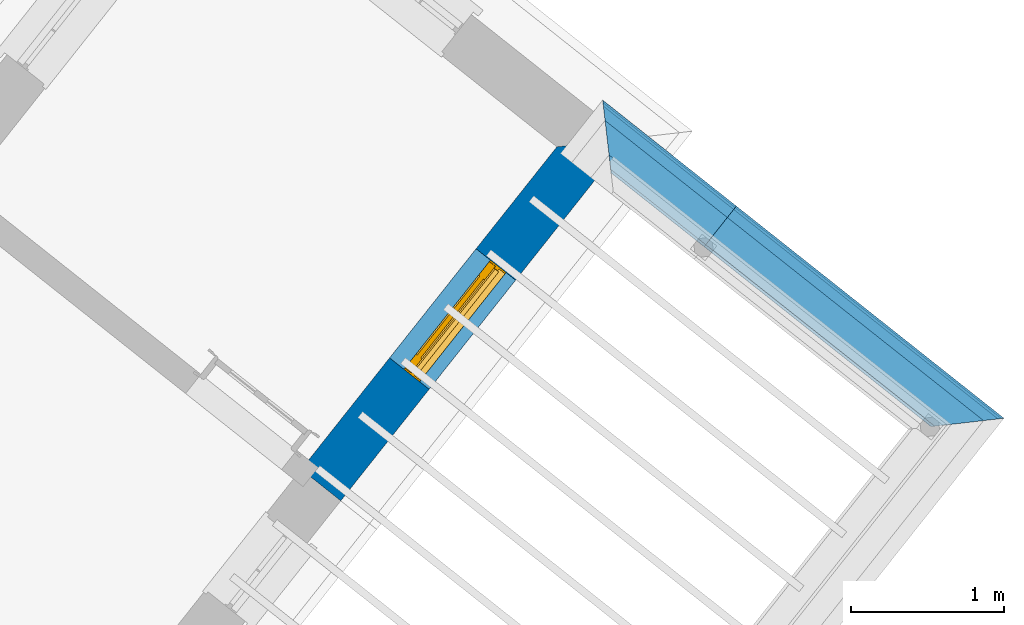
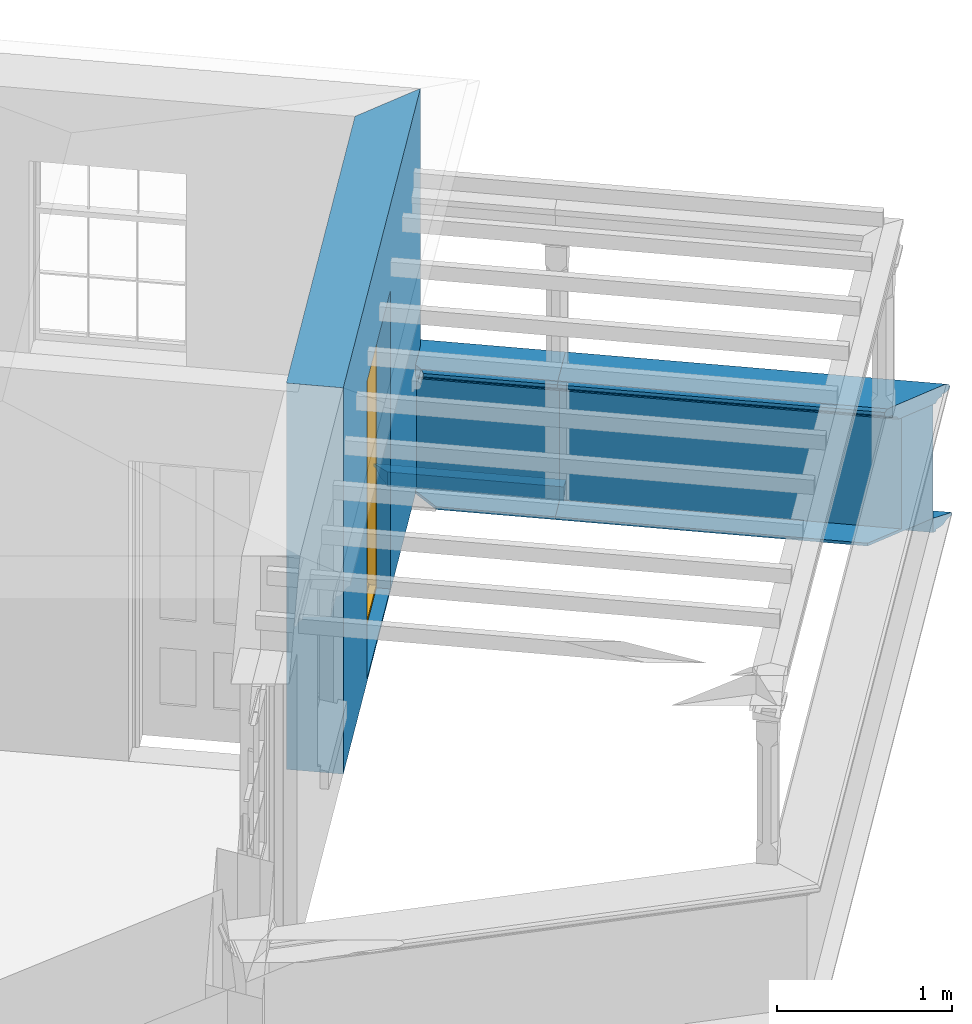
# One storey, part 4 of 5: 7 walls, 1 door, 1 opening.
"""IFC4 building model written with IfcOpenShell, lengths in metres."""

from ifc_helpers import new_model, si_unit, frame, origin, origin_with_axes, place, context, subcontext, project, spatial, polyline, outline, extrude, clip, halfspace, faceted_brep, source, transform, mapped, material, layer, layer_set, layer_usage, material_profile, profile_set, profile_usage, type_object, type_shapes, element, fill, save


model = new_model("IFC4")

# Units and contexts
model_context = context("Model", 3, world=origin_with_axes())
body_context = subcontext(model_context, "Body", "Model", "MODEL_VIEW")
ifc_project = project(units=[si_unit("PLANEANGLEUNIT", "RADIAN"), si_unit("MASSUNIT", "GRAM", prefix="KILO"), si_unit("FORCEUNIT", "NEWTON", prefix="KILO"), si_unit("LENGTHUNIT", "METRE"), si_unit("AREAUNIT", "SQUARE_METRE"), si_unit("VOLUMEUNIT", "CUBIC_METRE")], contexts=[model_context, model_context])

# Sites, building, storey
site_1_placement = place(None, origin_with_axes())
site_1 = spatial("IfcSite", under=ifc_project, at=site_1_placement, Name="Tamar")
site_2_placement = place(site_1_placement, origin_with_axes())
site_2 = spatial("IfcSite", under=site_1, at=site_2_placement, Name="Site plot-5", CompositionType="ELEMENT")
building_placement = place(None, origin_with_axes())
building = spatial("IfcBuilding", under=site_2, at=building_placement, Name="Building plot-5", CompositionType="ELEMENT")
storey_placement = place(None, frame((0.0, 0.0, 30.15), z_axis=(0.0, 0.0, 1.0), x_axis=(1.0, 0.0, 0.0)))
storey = spatial("IfcBuildingStorey", under=building, at=storey_placement, Name="plot-5 2", CompositionType="ELEMENT", Elevation=30.15)

# Wall, opening, door
ifc_material = material(Name="Masonry")
ifc_layer = layer(ifc_material, 0.33, ventilated=False)
ifc_layer_set = layer_set([ifc_layer], Name="exterior_0.08_0.25")
ifc_layer_usage = layer_usage(ifc_layer_set, "AXIS2", "POSITIVE", -0.25)
wall_type_1 = type_object("IfcWallType", Name="exterior_0.08_0.25", PredefinedType="SOLIDWALL", material=ifc_layer_set)
wall_1_placement = place(storey_placement, frame((230.162239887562, 273.505186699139, 0.0), z_axis=(0.0, 0.0, 1.0), x_axis=(0.62119239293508, 0.783658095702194, 0.0)))
wall_1 = element("IfcWall", 1, at=wall_1_placement, inside=storey, type_object=wall_type_1, material=ifc_layer_usage, Name="exterior", context=body_context, shape_type="SweptSolid", body=[
    extrude(outline(polyline([(-2.75463959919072e-14, 0.0800000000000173), (1.03044004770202e-13, -0.249999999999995), (3.02068773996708, -0.24999999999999), (2.69068773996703, 0.0800000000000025), (-2.75463959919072e-14, 0.0800000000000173)])), origin_with_axes(), (0.0, 0.0, 1.0), 2.7),
])
opening_placement = place(wall_1_placement, frame((0.930343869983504, 0.0, 0.0199999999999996)))
opening = element("IfcOpeningElement", 2, at=opening_placement, cuts=wall_1, Name="My Opening", ObjectType="Opening", context=body_context, shape_type="SweptSolid", body=[
    extrude(outline(polyline([(0.0, -0.270000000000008), (0.910000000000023, -0.269999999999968), (0.910000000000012, 1.10000000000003), (-1.04360964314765e-14, 1.09999999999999), (0.0, -0.270000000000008)])), origin_with_axes(), (0.0, 0.0, 1.0), 2.08),
])
door_type = type_object("IfcDoorType", Name="door_panelled", OperationType="SINGLE_SWING_LEFT", PredefinedType="NOTDEFINED")
shared_shape = source(origin(), body_context, "Body", "Brep", [
    faceted_brep([(0.545, 0.195, 0.265), (0.745, 0.195, 0.265), (0.745, 0.2, 0.265), (0.545, 0.2, 0.265), (0.745, 0.2, 0.58), (0.545, 0.2, 0.58), (0.545, 0.195, 0.58), (0.515, 0.19, 0.235), (0.775, 0.19, 0.235), (0.745, 0.195, 0.58), (0.515, 0.19, 0.61), (0.515, 0.185, 0.235), (0.775, 0.185, 0.235), (0.775, 0.19, 0.61), (0.515, 0.185, 0.61), (0.785, 0.185, 0.225), (0.505, 0.185, 0.225), (0.775, 0.185, 0.61), (0.505, 0.185, 0.62), (0.785, 0.185, 0.62), (0.505, 0.18, 0.225), (0.785, 0.18, 0.225), (0.505, 0.18, 0.62), (0.785, 0.18, 0.62), (0.883, 0.18, 0.075), (0.898, 0.18, 0.075), (0.405, 0.18, 0.62), (0.405, 0.18, 0.225), (0.027, 0.18, 0.075), (0.785, 0.18, 0.82), (0.125, 0.18, 0.82), (0.405, 0.185, 0.62), (0.405, 0.185, 0.225), (0.898, 0.18, 2.068), (0.027, 0.17, 0.075), (0.883, 0.17, 0.075), (0.125, 0.18, 0.225), (0.012, 0.18, 0.075), (0.785, 0.19, 0.82), (0.125, 0.19, 0.82), (0.125, 0.18, 0.62), (0.125, 0.185, 0.62), (0.395, 0.185, 0.61), (0.395, 0.185, 0.235), (0.125, 0.185, 0.225), (0.785, 0.18, 1.895), (0.027, 0.14, 0.045), (0.883, 0.14, 0.045), (0.558333, 0.19, 0.83), (0.351667, 0.19, 0.83), (0.125, 0.18, 1.895), (0.125, 0.19, 1.895), (0.785, 0.19, 1.895), (0.012, 0.18, 2.068), (0.135, 0.185, 0.61), (0.395, 0.19, 0.61), (0.395, 0.19, 0.235), (0.135, 0.185, 0.235), (0.027, 0.14, 0.027), (0.883, 0.14, 0.027), (0.568333, 0.19, 0.83), (0.558333, 0.22, 0.83), (0.351667, 0.22, 0.83), (0.341667, 0.19, 0.83), (0.135, 0.19, 1.185), (0.135, 0.19, 1.53), (0.775, 0.19, 1.53), (0.775, 0.19, 1.185), (0.135, 0.19, 0.61), (0.365, 0.195, 0.58), (0.365, 0.195, 0.265), (0.135, 0.19, 0.235), (0.568333, 0.19, 1.175), (0.558333, 0.19, 1.175), (0.775, 0.19, 0.83), (0.558333, 0.22, 1.175), (0.785, 0.22, 0.82), (0.125, 0.22, 0.82), (0.351667, 0.22, 1.175), (0.351667, 0.19, 1.175), (0.341667, 0.19, 1.175), (0.135, 0.19, 0.83), (0.135, 0.19, 1.175), (0.135, 0.22, 1.185), (0.135, 0.22, 1.53), (0.135, 0.19, 1.54), (0.351667, 0.19, 1.885), (0.558333, 0.19, 1.885), (0.775, 0.22, 1.53), (0.775, 0.22, 1.185), (0.775, 0.19, 1.175), (0.775, 0.19, 1.54), (0.165, 0.195, 0.58), (0.365, 0.2, 0.58), (0.365, 0.2, 0.265), (0.165, 0.195, 0.265), (0.568333, 0.22, 0.83), (0.568333, 0.22, 1.175), (0.568333, 0.19, 1.185), (0.558333, 0.19, 1.185), (0.775, 0.22, 0.83), (0.785, 0.23, 0.82), (0.125, 0.23, 0.82), (0.341667, 0.22, 0.83), (0.341667, 0.22, 1.175), (0.351667, 0.19, 1.185), (0.341667, 0.19, 1.185), (0.135, 0.22, 0.83), (0.341667, 0.22, 1.185), (0.125, 0.22, 1.895), (0.341667, 0.22, 1.53), (0.341667, 0.19, 1.53), (0.135, 0.19, 1.885), (0.341667, 0.19, 1.54), (0.341667, 0.19, 1.885), (0.558333, 0.22, 1.885), (0.351667, 0.22, 1.885), (0.568333, 0.19, 1.885), (0.785, 0.22, 1.895), (0.568333, 0.22, 1.185), (0.568333, 0.19, 1.53), (0.568333, 0.22, 1.53), (0.568333, 0.19, 1.54), (0.775, 0.19, 1.885), (0.165, 0.2, 0.58), (0.165, 0.2, 0.265), (0.775, 0.22, 1.175), (0.558333, 0.19, 1.53), (0.351667, 0.22, 1.185), (0.558333, 0.22, 1.185), (0.505, 0.23, 0.62), (0.405, 0.23, 0.62), (0.125, 0.23, 1.895), (0.785, 0.23, 1.895), (0.351667, 0.19, 1.53), (0.135, 0.22, 1.175), (0.135, 0.22, 1.54), (0.341667, 0.22, 1.54), (0.135, 0.22, 1.885), (0.351667, 0.19, 1.54), (0.558333, 0.22, 1.54), (0.558333, 0.19, 1.54), (0.351667, 0.22, 1.54), (0.775, 0.22, 1.54), (0.568333, 0.22, 1.54), (0.775, 0.22, 1.885), (0.558333, 0.22, 1.53), (0.405, 0.23, 0.225), (0.505, 0.23, 0.225), (0.125, 0.23, 0.62), (0.785, 0.23, 0.62), (0.012, 0.23, 2.068), (0.898, 0.23, 2.068), (0.351667, 0.22, 1.53), (0.341667, 0.22, 1.885), (0.568333, 0.22, 1.885), (0.405, 0.225, 0.225), (0.405, 0.225, 0.62), (0.505, 0.225, 0.62), (0.505, 0.225, 0.225), (0.898, 0.23, 0.027), (0.012, 0.23, 0.027), (0.125, 0.225, 0.62), (0.785, 0.225, 0.62), (0.395, 0.225, 0.235), (0.395, 0.225, 0.61), (0.125, 0.23, 0.225), (0.125, 0.225, 0.225), (0.515, 0.225, 0.61), (0.515, 0.225, 0.235), (0.785, 0.23, 0.225), (0.785, 0.225, 0.225), (0.135, 0.225, 0.61), (0.775, 0.225, 0.61), (0.135, 0.225, 0.235), (0.395, 0.22, 0.235), (0.395, 0.22, 0.61), (0.515, 0.22, 0.61), (0.515, 0.22, 0.235), (0.775, 0.225, 0.235), (0.135, 0.22, 0.61), (0.775, 0.22, 0.61), (0.135, 0.22, 0.235), (0.365, 0.215, 0.265), (0.365, 0.215, 0.58), (0.545, 0.215, 0.58), (0.545, 0.215, 0.265), (0.775, 0.22, 0.235), (0.165, 0.215, 0.58), (0.745, 0.215, 0.58), (0.165, 0.215, 0.265), (0.365, 0.21, 0.58), (0.365, 0.21, 0.265), (0.545, 0.21, 0.58), (0.545, 0.21, 0.265), (0.745, 0.215, 0.265), (0.165, 0.21, 0.58), (0.745, 0.21, 0.58), (0.165, 0.21, 0.265), (0.745, 0.21, 0.265), (0.885, 0.178, 0.025), (0.025, 0.178, 0.025), (0.025, 0.15, 0.025), (0.885, 0.15, 0.025), (0.9, 0.23, 0.025), (0.01, 0.23, 0.025), (0.9, 0.178, 0.025), (0.91, 0.23, 0.0), (0.0, 0.23, 0.0), (0.01, 0.178, 0.025), (0.9, 0.178, 2.07), (0.9, 0.23, 2.07), (0.885, 0.178, 2.055), (0.91, 0.23, 2.08), (0.01, 0.23, 2.07), (0.0, 0.23, 2.08), (0.01, 0.178, 2.07), (0.025, 0.178, 2.055), (0.0, 0.1, 2.08), (0.91, 0.1, 2.08), (0.01, 0.1, 2.07), (0.9, 0.1, 2.07), (0.01, 0.15, 2.07), (0.9, 0.15, 2.07), (0.0, 0.1, 0.0), (0.91, 0.1, 0.0), (0.01, 0.1, 0.025), (0.9, 0.1, 0.025), (0.01, 0.15, 0.025), (0.025, 0.15, 2.055), (0.9, 0.15, 0.025), (0.885, 0.15, 2.055), (0.898, 0.18, 0.027), (0.012, 0.18, 0.027), (0.883, 0.18, 0.027), (0.027, 0.18, 0.027)], [[[0, 1, 2, 3]], [[2, 4, 5, 3]], [[0, 3, 5, 6]], [[1, 0, 7, 8]], [[9, 4, 2, 1]], [[9, 6, 5, 4]], [[0, 6, 10, 7]], [[8, 7, 11, 12]], [[8, 13, 9, 1]], [[13, 10, 6, 9]], [[7, 10, 14, 11]], [[15, 12, 11, 16]], [[12, 17, 13, 8]], [[17, 14, 10, 13]], [[18, 16, 11, 14]], [[15, 19, 17, 12]], [[15, 16, 20, 21]], [[14, 17, 19, 18]], [[16, 18, 22, 20]], [[21, 23, 19, 15]], [[24, 25, 21, 20]], [[23, 22, 18, 19]], [[20, 22, 26, 27]], [[23, 21, 25]], [[28, 24, 20, 27]], [[22, 23, 29]], [[29, 30, 26, 22]], [[27, 26, 31, 32]], [[23, 25, 33, 29]], [[34, 35, 24, 28]], [[28, 27, 36, 37]], [[38, 39, 30, 29]], [[26, 30, 40]], [[26, 40, 41, 31]], [[42, 43, 32, 31]], [[32, 44, 36, 27]], [[33, 45, 29]], [[46, 47, 35, 34]], [[36, 40, 37]], [[39, 38, 48, 49]], [[50, 30, 39, 51]], [[29, 45, 52, 38]], [[53, 37, 40, 30]], [[44, 41, 40, 36]], [[31, 41, 54, 42]], [[43, 42, 55, 56]], [[57, 44, 32, 43]], [[50, 45, 33, 53]], [[47, 46, 58, 59]], [[60, 48, 38]], [[49, 48, 61, 62]], [[49, 63, 39]], [[50, 53, 30]], [[51, 39, 64, 65]], [[45, 50, 51, 52]], [[66, 67, 38, 52]], [[57, 54, 41, 44]], [[42, 54, 68, 55]], [[56, 55, 69, 70]], [[56, 71, 57, 43]], [[60, 72, 73, 48]], [[60, 38, 74]], [[48, 73, 75, 61]], [[76, 77, 62, 61]], [[62, 78, 79, 49]], [[49, 79, 80, 63]], [[63, 81, 39]], [[82, 64, 39]], [[65, 64, 83, 84]], [[85, 51, 65]], [[52, 51, 86, 87]], [[88, 89, 67, 66]], [[90, 38, 67]], [[91, 66, 52]], [[71, 68, 54, 57]], [[55, 68, 92, 69]], [[69, 93, 94, 70]], [[70, 95, 71, 56]], [[96, 97, 72, 60]], [[73, 72, 98, 99]], [[74, 38, 90]], [[100, 96, 60, 74]], [[75, 73, 79, 78]], [[61, 75, 97, 96]], [[101, 102, 77, 76]], [[77, 103, 62]], [[96, 76, 61]], [[103, 104, 78, 62]], [[80, 79, 105, 106]], [[63, 80, 104, 103]], [[81, 63, 103, 107]], [[81, 82, 39]], [[106, 64, 82, 80]], [[106, 108, 83, 64]], [[84, 83, 77, 109]], [[110, 111, 65, 84]], [[112, 51, 85]], [[113, 85, 65, 111]], [[114, 86, 51]], [[115, 87, 86, 116]], [[117, 52, 87]], [[118, 76, 89, 88]], [[119, 98, 67, 89]], [[120, 121, 88, 66]], [[67, 98, 72, 90]], [[91, 122, 120, 66]], [[91, 52, 123]], [[95, 92, 68, 71]], [[69, 92, 124, 93]], [[94, 93, 124, 125]], [[94, 125, 95, 70]], [[72, 97, 126, 90]], [[127, 99, 98, 120]], [[99, 105, 79, 73]], [[74, 90, 126, 100]], [[96, 100, 76]], [[128, 129, 75, 78]], [[97, 75, 129, 119]], [[130, 131, 102, 101]], [[109, 77, 102, 132]], [[133, 101, 76, 118]], [[77, 107, 103]], [[78, 104, 108, 128]], [[111, 106, 105, 134]], [[104, 80, 82, 135]], [[107, 135, 82, 81]], [[110, 108, 106, 111]], [[104, 135, 83, 108]], [[83, 135, 77]], [[136, 84, 109]], [[110, 84, 136, 137]], [[114, 51, 112]], [[85, 136, 138, 112]], [[113, 137, 136, 85]], [[111, 134, 139, 113]], [[86, 114, 113, 139]], [[140, 141, 87, 115]], [[139, 142, 116, 86]], [[109, 118, 115, 116]], [[117, 123, 52]], [[117, 87, 141, 122]], [[126, 89, 76]], [[143, 118, 88]], [[120, 98, 119, 121]], [[119, 89, 126, 97]], [[144, 143, 88, 121]], [[144, 122, 91, 143]], [[127, 120, 122, 141]], [[143, 91, 123, 145]], [[124, 92, 95, 125]], [[146, 129, 99, 127]], [[99, 129, 128, 105]], [[100, 126, 76]], [[121, 119, 129, 146]], [[147, 131, 130, 148]], [[131, 149, 102]], [[130, 101, 150]], [[102, 151, 132]], [[118, 109, 132, 133]], [[101, 133, 152]], [[107, 77, 135]], [[153, 128, 108, 110]], [[134, 105, 128, 153]], [[109, 138, 136]], [[153, 110, 137, 142]], [[154, 114, 112, 138]], [[137, 113, 114, 154]], [[141, 139, 134, 127]], [[141, 140, 142, 139]], [[144, 140, 115, 155]], [[142, 137, 154, 116]], [[155, 115, 118]], [[116, 154, 109]], [[117, 155, 145, 123]], [[122, 144, 155, 117]], [[143, 145, 118]], [[121, 146, 140, 144]], [[146, 127, 134, 153]], [[156, 157, 131, 147]], [[148, 130, 158, 159]], [[148, 160, 161, 147]], [[157, 162, 149, 131]], [[161, 151, 102, 149]], [[101, 152, 160, 150]], [[163, 158, 130, 150]], [[151, 152, 133, 132]], [[154, 138, 109]], [[142, 140, 146, 153]], [[145, 155, 118]], [[157, 156, 164, 165]], [[147, 166, 167, 156]], [[168, 169, 159, 158]], [[170, 148, 159, 171]], [[148, 170, 160]], [[166, 147, 161]], [[172, 162, 157, 165]], [[166, 149, 162, 167]], [[166, 161, 149]], [[150, 160, 170]], [[163, 173, 168, 158]], [[171, 163, 150, 170]], [[174, 164, 156, 167]], [[175, 176, 165, 164]], [[169, 168, 177, 178]], [[171, 159, 169, 179]], [[167, 162, 172, 174]], [[176, 180, 172, 165]], [[179, 173, 163, 171]], [[181, 177, 168, 173]], [[164, 174, 182, 175]], [[183, 184, 176, 175]], [[178, 177, 185, 186]], [[179, 169, 178, 187]], [[174, 172, 180, 182]], [[184, 188, 180, 176]], [[187, 181, 173, 179]], [[189, 185, 177, 181]], [[175, 182, 190, 183]], [[191, 184, 183, 192]], [[185, 193, 194, 186]], [[187, 178, 186, 195]], [[182, 180, 188, 190]], [[191, 196, 188, 184]], [[195, 189, 181, 187]], [[197, 193, 185, 189]], [[183, 190, 198, 192]], [[198, 196, 191, 192]], [[194, 193, 197, 199]], [[195, 186, 194, 199]], [[188, 196, 198, 190]], [[197, 189, 195, 199]], [[200, 201, 202, 203]], [[201, 200, 204, 205]], [[206, 204, 200]], [[204, 207, 208, 205]], [[209, 201, 205]], [[210, 211, 204, 206]], [[206, 200, 212, 210]], [[211, 213, 207, 204]], [[214, 205, 208, 215]], [[216, 217, 201, 209]], [[205, 214, 216, 209]], [[216, 214, 211, 210]], [[210, 212, 217, 216]], [[214, 215, 213, 211]], [[218, 219, 213, 215]], [[219, 218, 220, 221]], [[221, 220, 222, 223]], [[215, 208, 224, 218]], [[225, 224, 208, 207]], [[224, 226, 220, 218]], [[224, 225, 227, 226]], [[219, 225, 207, 213]], [[228, 222, 220, 226]], [[219, 221, 227, 225]], [[226, 227, 203, 202]], [[202, 229, 222, 228]], [[228, 226, 202]], [[227, 221, 223, 230]], [[230, 203, 227]], [[217, 229, 202, 201]], [[231, 223, 222, 229]], [[230, 223, 231, 203]], [[231, 229, 217, 212]], [[212, 200, 203, 231]], [[33, 152, 151, 53]], [[25, 160, 152, 33]], [[161, 37, 53, 151]], [[232, 160, 25]], [[161, 233, 37]], [[160, 232, 234]], [[24, 234, 232, 25]], [[233, 161, 235]], [[37, 233, 235, 28]], [[161, 160, 234, 235]], [[35, 47, 234, 24]], [[28, 235, 46, 34]], [[58, 235, 234, 59]], [[59, 234, 47]], [[58, 46, 235]]]),
])
type_shapes(door_type, [shared_shape])
door_placement = place(storey_placement, frame((230.951750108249, 274.066536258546, 0.0199999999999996), z_axis=(0.0, 0.0, 1.0), x_axis=(0.565285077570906, 0.71312886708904, 0.0)))
door = element("IfcDoor", 3, at=door_placement, inside=storey, type_object=door_type, Name="circulation outside door", OverallHeight=2.08, OverallWidth=0.91, context=body_context, shape_type="MappedRepresentation", body=[
    mapped(shared_shape, transform((0.0, 0.0, 0.0), scale=1.0)),
])
fill(opening, door)

# Walls
ifc_material_profile_1 = material_profile(None, outline(polyline([(0.25, 0.0), (0.25, 0.795), (0.09, 0.795), (0.09, 0.02), (-0.08, 0.02), (-0.08, 0.0), (0.25, 0.0)])))
ifc_profile_set_1 = profile_set([ifc_material_profile_1])
ifc_profile_usage_1 = profile_usage(ifc_profile_set_1)
wall_type_2 = type_object("IfcWallType", Name="parapet_0", PredefinedType="PARAPET", material=ifc_profile_set_1)
wall_2_placement = place(storey_placement, frame((231.945888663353, 275.626901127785, 0.0), z_axis=(0.783658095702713, -0.621192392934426, 0.0), x_axis=(0.621192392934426, 0.783658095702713, 0.0)))
element("IfcWall", 4, at=wall_2_placement, inside=storey, type_object=wall_type_2, material=ifc_profile_usage_1, Name="parapet_0", context=body_context, shape_type="Clipping", body=[
    clip(clip(extrude(outline(polyline([(0.25, 0.0), (0.25, 0.795), (0.09, 0.795), (0.09, 0.02), (-0.08, 0.02), (-0.08, 0.0), (0.25, 0.0)])), origin_with_axes(), (0.0, 0.0, 1.0), 3.8870147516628), halfspace(frame((0.0, 0.0, 2.8870147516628), z_axis=(0.707106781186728, 0.0, -0.707106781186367), x_axis=(0.0, 1.0, 0.0)), True)), halfspace(frame((0.0, 0.0, 1.0), z_axis=(1.27103528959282e-15, 0.0, -1.0), x_axis=(0.0, 1.0, 0.0)), False)),
])
ifc_profile_usage_2 = profile_usage(ifc_profile_set_1)
wall_3_placement = place(storey_placement, frame((231.342645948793, 276.105081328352, 0.0), z_axis=(0.783658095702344, -0.62119239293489, 0.0), x_axis=(0.62119239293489, 0.783658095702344, 0.0)))
element("IfcWall", 5, at=wall_3_placement, inside=storey, type_object=wall_type_2, material=ifc_profile_usage_2, Name="parapet_0", context=body_context, shape_type="Clipping", body=[
    clip(clip(extrude(outline(polyline([(0.25, 0.0), (0.25, 0.795), (0.09, 0.795), (0.09, 0.02), (-0.08, 0.02), (-0.08, 0.0), (0.25, 0.0)])), origin_with_axes(), (0.0, 0.0, 1.0), 2.7697779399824), halfspace(frame((0.0, 0.0, 1.7697779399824), z_axis=(-5.92476238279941e-13, 0.0, -1.0), x_axis=(0.0, 1.0, 0.0)), True)), halfspace(frame((0.0, 0.0, 1.0), z_axis=(-0.707106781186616, 0.0, -0.707106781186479), x_axis=(0.0, 1.0, 0.0)), False)),
])
ifc_material_profile_2 = material_profile(None, outline(polyline([(0.265, 0.795), (0.268, 0.807), (0.274, 0.816), (0.283, 0.822), (0.295, 0.825), (0.295, 0.84), (0.305, 0.84), (0.317, 0.842), (0.326, 0.849), (0.333, 0.858), (0.335, 0.87), (0.333, 0.882), (0.326, 0.891), (0.317, 0.898), (0.305, 0.9), (0.035, 0.9), (0.023, 0.898), (0.014, 0.891), (0.007, 0.882), (0.005, 0.87), (0.007, 0.858), (0.014, 0.849), (0.023, 0.842), (0.035, 0.84), (0.045, 0.84), (0.045, 0.825), (0.057, 0.822), (0.066, 0.816), (0.072, 0.807), (0.075, 0.795), (0.265, 0.795)])))
ifc_profile_set_2 = profile_set([ifc_material_profile_2])
ifc_profile_usage_3 = profile_usage(ifc_profile_set_2)
wall_type_3 = type_object("IfcWallType", Name="parapet_1", PredefinedType="PARAPET", material=ifc_profile_set_2)
wall_4_placement = place(storey_placement, frame((231.945888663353, 275.626901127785, 0.0), z_axis=(0.783658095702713, -0.621192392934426, 0.0), x_axis=(0.621192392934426, 0.783658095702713, 0.0)))
element("IfcWall", 6, at=wall_4_placement, inside=storey, type_object=wall_type_3, material=ifc_profile_usage_3, Name="parapet_1", context=body_context, shape_type="Clipping", body=[
    clip(clip(extrude(outline(polyline([(0.265, 0.795), (0.268, 0.807), (0.274, 0.816), (0.283, 0.822), (0.295, 0.825), (0.295, 0.84), (0.305, 0.84), (0.317, 0.842), (0.326, 0.849), (0.333, 0.858), (0.335, 0.87), (0.333, 0.882), (0.326, 0.891), (0.317, 0.898), (0.305, 0.9), (0.035, 0.9), (0.023, 0.898), (0.014, 0.891), (0.007, 0.882), (0.005, 0.87), (0.007, 0.858), (0.014, 0.849), (0.023, 0.842), (0.035, 0.84), (0.045, 0.84), (0.045, 0.825), (0.057, 0.822), (0.066, 0.816), (0.072, 0.807), (0.075, 0.795), (0.265, 0.795)])), origin_with_axes(), (0.0, 0.0, 1.0), 3.8870147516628), halfspace(frame((0.0, 0.0, 2.8870147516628), z_axis=(0.707106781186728, 0.0, -0.707106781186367), x_axis=(0.0, 1.0, 0.0)), True)), halfspace(frame((0.0, 0.0, 1.0), z_axis=(1.27103528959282e-15, 0.0, -1.0), x_axis=(0.0, 1.0, 0.0)), False)),
])
ifc_profile_usage_4 = profile_usage(ifc_profile_set_2)
wall_5_placement = place(storey_placement, frame((231.342645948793, 276.105081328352, 0.0), z_axis=(0.783658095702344, -0.62119239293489, 0.0), x_axis=(0.62119239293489, 0.783658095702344, 0.0)))
element("IfcWall", 7, at=wall_5_placement, inside=storey, type_object=wall_type_3, material=ifc_profile_usage_4, Name="parapet_1", context=body_context, shape_type="Clipping", body=[
    clip(clip(extrude(outline(polyline([(0.265, 0.795), (0.268, 0.807), (0.274, 0.816), (0.283, 0.822), (0.295, 0.825), (0.295, 0.84), (0.305, 0.84), (0.317, 0.842), (0.326, 0.849), (0.333, 0.858), (0.335, 0.87), (0.333, 0.882), (0.326, 0.891), (0.317, 0.898), (0.305, 0.9), (0.035, 0.9), (0.023, 0.898), (0.014, 0.891), (0.007, 0.882), (0.005, 0.87), (0.007, 0.858), (0.014, 0.849), (0.023, 0.842), (0.035, 0.84), (0.045, 0.84), (0.045, 0.825), (0.057, 0.822), (0.066, 0.816), (0.072, 0.807), (0.075, 0.795), (0.265, 0.795)])), origin_with_axes(), (0.0, 0.0, 1.0), 2.7697779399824), halfspace(frame((0.0, 0.0, 1.7697779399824), z_axis=(-5.92476238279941e-13, 0.0, -1.0), x_axis=(0.0, 1.0, 0.0)), True)), halfspace(frame((0.0, 0.0, 1.0), z_axis=(-0.707106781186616, 0.0, -0.707106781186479), x_axis=(0.0, 1.0, 0.0)), False)),
])
ifc_material_profile_3 = material_profile(None, outline(polyline([(0.25, -0.1), (0.265, -0.1), (0.265, -0.085), (0.278, -0.084), (0.289, -0.081), (0.301, -0.074), (0.309, -0.065), (0.315, -0.055), (0.324, -0.044), (0.334, -0.038), (0.345, -0.035), (0.345, -0.015), (0.25, 0.0), (0.25, -0.1)])))
ifc_profile_set_3 = profile_set([ifc_material_profile_3])
ifc_profile_usage_5 = profile_usage(ifc_profile_set_3)
wall_type_4 = type_object("IfcWallType", Name="parapet_2", PredefinedType="PARAPET", material=ifc_profile_set_3)
wall_6_placement = place(storey_placement, frame((231.945888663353, 275.626901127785, 0.0), z_axis=(0.783658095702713, -0.621192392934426, 0.0), x_axis=(0.621192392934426, 0.783658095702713, 0.0)))
element("IfcWall", 8, at=wall_6_placement, inside=storey, type_object=wall_type_4, material=ifc_profile_usage_5, Name="parapet_2", context=body_context, shape_type="Clipping", body=[
    clip(clip(extrude(outline(polyline([(0.25, -0.1), (0.265, -0.1), (0.265, -0.085), (0.278, -0.084), (0.289, -0.081), (0.301, -0.074), (0.309, -0.065), (0.315, -0.055), (0.324, -0.044), (0.334, -0.038), (0.345, -0.035), (0.345, -0.015), (0.25, 0.0), (0.25, -0.1)])), origin_with_axes(), (0.0, 0.0, 1.0), 3.8870147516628), halfspace(frame((0.0, 0.0, 2.8870147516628), z_axis=(0.707106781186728, 0.0, -0.707106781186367), x_axis=(0.0, 1.0, 0.0)), True)), halfspace(frame((0.0, 0.0, 1.0), z_axis=(1.27103528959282e-15, 0.0, -1.0), x_axis=(0.0, 1.0, 0.0)), False)),
])
ifc_profile_usage_6 = profile_usage(ifc_profile_set_3)
wall_7_placement = place(storey_placement, frame((231.342645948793, 276.105081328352, 0.0), z_axis=(0.783658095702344, -0.62119239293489, 0.0), x_axis=(0.62119239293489, 0.783658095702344, 0.0)))
element("IfcWall", 9, at=wall_7_placement, inside=storey, type_object=wall_type_4, material=ifc_profile_usage_6, Name="parapet_2", context=body_context, shape_type="Clipping", body=[
    clip(clip(extrude(outline(polyline([(0.25, -0.1), (0.265, -0.1), (0.265, -0.085), (0.278, -0.084), (0.289, -0.081), (0.301, -0.074), (0.309, -0.065), (0.315, -0.055), (0.324, -0.044), (0.334, -0.038), (0.345, -0.035), (0.345, -0.015), (0.25, 0.0), (0.25, -0.1)])), origin_with_axes(), (0.0, 0.0, 1.0), 2.7697779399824), halfspace(frame((0.0, 0.0, 1.7697779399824), z_axis=(-5.92476238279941e-13, 0.0, -1.0), x_axis=(0.0, 1.0, 0.0)), True)), halfspace(frame((0.0, 0.0, 1.0), z_axis=(-0.707106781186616, 0.0, -0.707106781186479), x_axis=(0.0, 1.0, 0.0)), False)),
])

save(model, "model.ifc")
